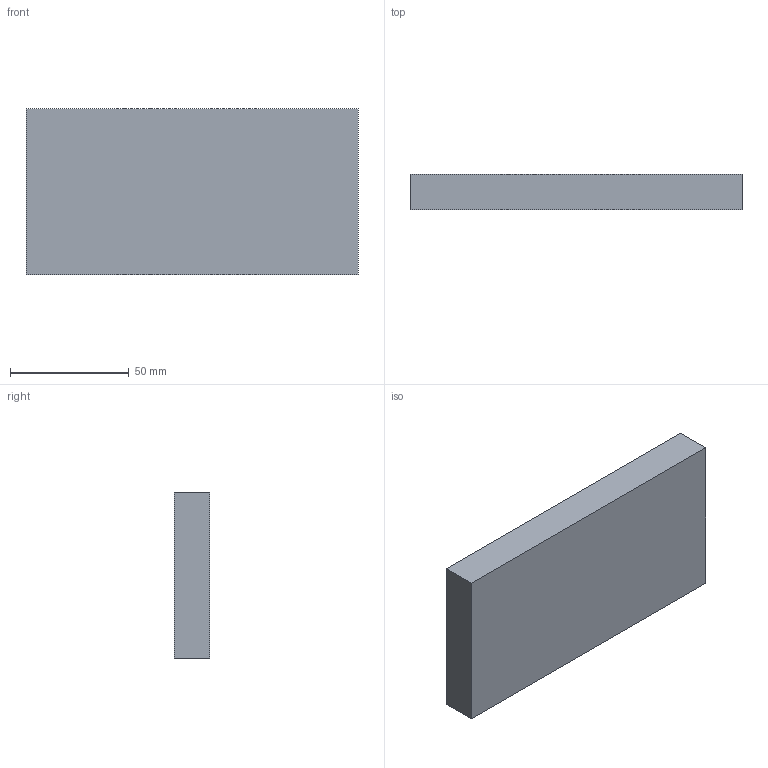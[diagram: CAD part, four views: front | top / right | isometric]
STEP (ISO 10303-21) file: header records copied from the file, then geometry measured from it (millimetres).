
FILE_DESCRIPTION(('Open CASCADE Model'),'2;1');
FILE_NAME('Open CASCADE Shape Model','2026-08-16T15:13:29',('Author'),( 'Open CASCADE'),'Open CASCADE STEP processor 7.9','Open CASCADE 7.9' ,'Unknown');
FILE_SCHEMA(('AUTOMOTIVE_DESIGN { 1 0 10303 214 1 1 1 1 }'));
Length unit declared in the file: millimetre
Products named in the file (1): Open CASCADE STEP translator 7.9 16
Bounding box: 140 x 15 x 70 mm (x, y, z)
Volume: 147000 mm3; surface area: 25900 mm2
Topology: 1 solids, 1 shells, 6 faces, 12 edges, 8 vertices
Faces by surface type: plane 6
Entity records: 322 total; most frequent: CARTESIAN_POINT 51, DIRECTION 50, LINE 36, VECTOR 36, ORIENTED_EDGE 24, PCURVE 24, DEFINITIONAL_REPRESENTATION 24, EDGE_CURVE 12
